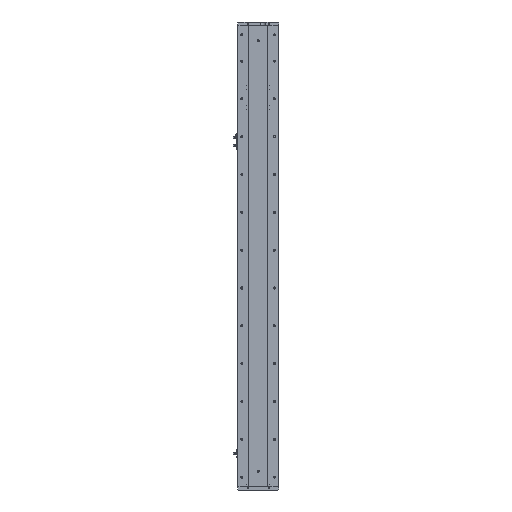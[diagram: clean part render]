
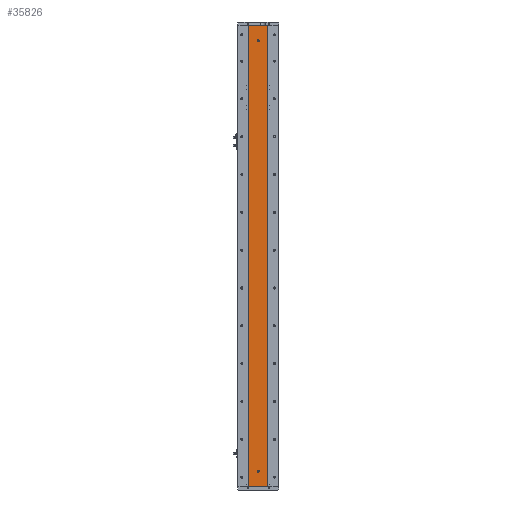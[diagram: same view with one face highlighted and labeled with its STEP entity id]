
A CAD part, left-side view. The second image highlights one B-rep face of the part: STEP entity #35826.
In plain terms, the highlighted planar face has unit normal (-1, 0, 0).
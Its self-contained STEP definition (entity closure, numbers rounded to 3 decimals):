
#35 = VERTEX_POINT ( 'NONE', #23773 ) ;
#344 = DIRECTION ( 'NONE',  ( 0., -1., 0. ) ) ;
#1970 = VECTOR ( 'NONE', #5711, 1000. ) ;
#2546 = VERTEX_POINT ( 'NONE', #30279 ) ;
#3308 = AXIS2_PLACEMENT_3D ( 'NONE', #29561, #10322, #32826 ) ;
#3449 = LINE ( 'NONE', #26554, #35666 ) ;
#3698 = PLANE ( 'NONE',  #3308 ) ;
#3911 = CARTESIAN_POINT ( 'NONE',  ( -24.994, 0., 1412. ) ) ;
#3956 = VERTEX_POINT ( 'NONE', #26496 ) ;
#4006 = EDGE_CURVE ( 'NONE', #36479, #38700, #5625, .T. ) ;
#4373 = ORIENTED_EDGE ( 'NONE', *, *, #18968, .F. ) ;
#4753 = CARTESIAN_POINT ( 'NONE',  ( -24.994, 0., 50. ) ) ;
#4886 = CARTESIAN_POINT ( 'NONE',  ( -24.994, 0., 50. ) ) ;
#5625 = CIRCLE ( 'NONE', #28084, 3. ) ;
#5711 = DIRECTION ( 'NONE',  ( 0., 0., -1. ) ) ;
#5955 = VERTEX_POINT ( 'NONE', #14570 ) ;
#6046 = EDGE_LOOP ( 'NONE', ( #25470, #32753, #12587, #32213 ) ) ;
#6971 = CARTESIAN_POINT ( 'NONE',  ( -24.994, -29.785, 1465. ) ) ;
#7824 = DIRECTION ( 'NONE',  ( -1., 0., 0. ) ) ;
#7991 = DIRECTION ( 'NONE',  ( 0., 0., 1. ) ) ;
#8132 = DIRECTION ( 'NONE',  ( 0., 0., 1. ) ) ;
#10322 = DIRECTION ( 'NONE',  ( 1., 0., 0. ) ) ;
#12587 = ORIENTED_EDGE ( 'NONE', *, *, #33189, .F. ) ;
#14025 = EDGE_LOOP ( 'NONE', ( #31377, #33658 ) ) ;
#14570 = CARTESIAN_POINT ( 'NONE',  ( -24.994, 0., 47. ) ) ;
#14964 = LINE ( 'NONE', #16557, #32067 ) ;
#16557 = CARTESIAN_POINT ( 'NONE',  ( -24.994, 29.785, 0. ) ) ;
#17587 = CIRCLE ( 'NONE', #18595, 3. ) ;
#17645 = CARTESIAN_POINT ( 'NONE',  ( -24.994, 0., 1415. ) ) ;
#17773 = LINE ( 'NONE', #18680, #34870 ) ;
#17869 = EDGE_CURVE ( 'NONE', #38700, #36479, #31348, .T. ) ;
#18595 = AXIS2_PLACEMENT_3D ( 'NONE', #4886, #27380, #8132 ) ;
#18680 = CARTESIAN_POINT ( 'NONE',  ( -24.994, -29.785, 1465. ) ) ;
#18968 = EDGE_CURVE ( 'NONE', #5955, #35, #36197, .T. ) ;
#19638 = AXIS2_PLACEMENT_3D ( 'NONE', #17645, #40120, #20861 ) ;
#20861 = DIRECTION ( 'NONE',  ( 0., 0., 1. ) ) ;
#21663 = VERTEX_POINT ( 'NONE', #6971 ) ;
#21779 = ORIENTED_EDGE ( 'NONE', *, *, #40827, .F. ) ;
#23773 = CARTESIAN_POINT ( 'NONE',  ( -24.994, 0., 53. ) ) ;
#25470 = ORIENTED_EDGE ( 'NONE', *, *, #37035, .T. ) ;
#25997 = FACE_BOUND ( 'NONE', #14025, .T. ) ;
#26496 = CARTESIAN_POINT ( 'NONE',  ( -24.994, 29.785, 0. ) ) ;
#26554 = CARTESIAN_POINT ( 'NONE',  ( -24.994, 29.785, 1465. ) ) ;
#26556 = CARTESIAN_POINT ( 'NONE',  ( -24.994, 0., 1418. ) ) ;
#26616 = LINE ( 'NONE', #31490, #1970 ) ;
#27060 = CARTESIAN_POINT ( 'NONE',  ( -24.994, 0., 1415. ) ) ;
#27234 = DIRECTION ( 'NONE',  ( -1., 0., 0. ) ) ;
#27380 = DIRECTION ( 'NONE',  ( -1., 0., 0. ) ) ;
#27890 = CARTESIAN_POINT ( 'NONE',  ( -24.994, 29.785, 1465. ) ) ;
#28084 = AXIS2_PLACEMENT_3D ( 'NONE', #27060, #7824, #30333 ) ;
#29069 = FACE_BOUND ( 'NONE', #34885, .T. ) ;
#29561 = CARTESIAN_POINT ( 'NONE',  ( -24.994, 29.785, 1465. ) ) ;
#29829 = DIRECTION ( 'NONE',  ( 0., -1., 0. ) ) ;
#30105 = EDGE_CURVE ( 'NONE', #21663, #2546, #17773, .T. ) ;
#30279 = CARTESIAN_POINT ( 'NONE',  ( -24.994, -29.785, 0. ) ) ;
#30333 = DIRECTION ( 'NONE',  ( 0., 0., 1. ) ) ;
#31348 = CIRCLE ( 'NONE', #19638, 3. ) ;
#31377 = ORIENTED_EDGE ( 'NONE', *, *, #17869, .F. ) ;
#31487 = DIRECTION ( 'NONE',  ( 0., 0., -1. ) ) ;
#31490 = CARTESIAN_POINT ( 'NONE',  ( -24.994, 29.785, 1465. ) ) ;
#32067 = VECTOR ( 'NONE', #344, 1000. ) ;
#32213 = ORIENTED_EDGE ( 'NONE', *, *, #35233, .T. ) ;
#32237 = VERTEX_POINT ( 'NONE', #27890 ) ;
#32753 = ORIENTED_EDGE ( 'NONE', *, *, #30105, .F. ) ;
#32826 = DIRECTION ( 'NONE',  ( 0., 0., -1. ) ) ;
#33189 = EDGE_CURVE ( 'NONE', #32237, #21663, #3449, .T. ) ;
#33598 = FACE_OUTER_BOUND ( 'NONE', #6046, .T. ) ;
#33658 = ORIENTED_EDGE ( 'NONE', *, *, #4006, .F. ) ;
#34870 = VECTOR ( 'NONE', #31487, 1000. ) ;
#34885 = EDGE_LOOP ( 'NONE', ( #21779, #4373 ) ) ;
#35233 = EDGE_CURVE ( 'NONE', #32237, #3956, #26616, .T. ) ;
#35666 = VECTOR ( 'NONE', #29829, 1000. ) ;
#35826 = ADVANCED_FACE ( 'NONE', ( #25997, #29069, #33598 ), #3698, .F. ) ;
#36197 = CIRCLE ( 'NONE', #40382, 3. ) ;
#36479 = VERTEX_POINT ( 'NONE', #3911 ) ;
#37035 = EDGE_CURVE ( 'NONE', #3956, #2546, #14964, .T. ) ;
#38700 = VERTEX_POINT ( 'NONE', #26556 ) ;
#40120 = DIRECTION ( 'NONE',  ( -1., 0., 0. ) ) ;
#40382 = AXIS2_PLACEMENT_3D ( 'NONE', #4753, #27234, #7991 ) ;
#40827 = EDGE_CURVE ( 'NONE', #35, #5955, #17587, .T. ) ;
